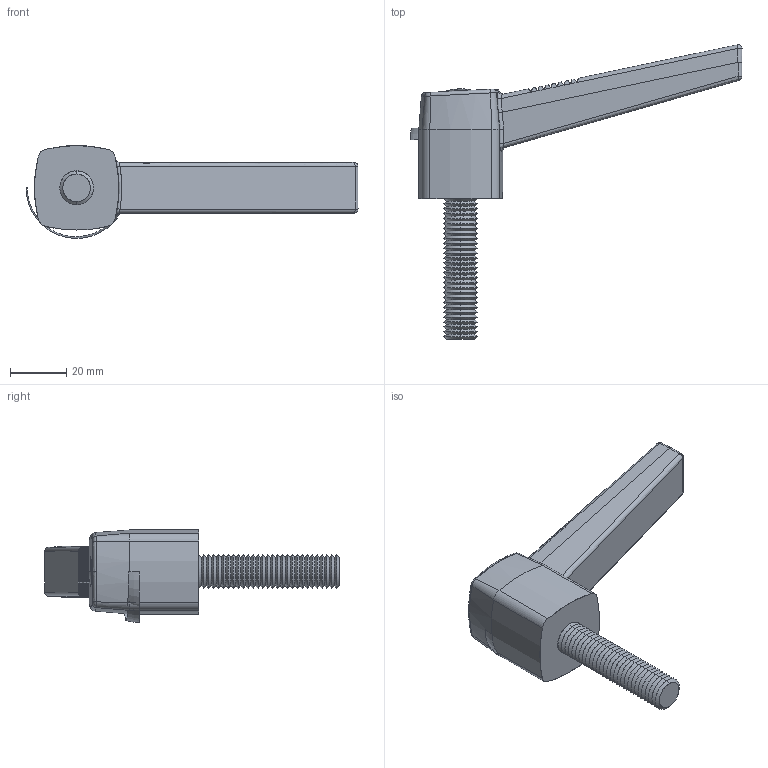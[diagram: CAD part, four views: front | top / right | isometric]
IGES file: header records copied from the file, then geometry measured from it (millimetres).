
Start section: SolidWorks IGES file using analytic representation for surfaces
Global section: file name: C:\Documents and Settings\IANO\Desktop\Temp File\Process pending\PCN pending\74970_v2\74970_v2_20161101_IGES\74970.W0100.igs; native system: SolidWorks 2009; preprocessor: SolidWorks 2009; author: IANO; date: 170306.084751; units: millimetre
Bounding box: 118 x 104.67 x 32.99 mm (x, y, z)
Surface area: 15274.2 mm2 (no closed solid volume)
Topology: 0 solids, 0 shells, 239 faces, 1753 edges, 1750 vertices
Faces by surface type: revolution 173, bspline 66
